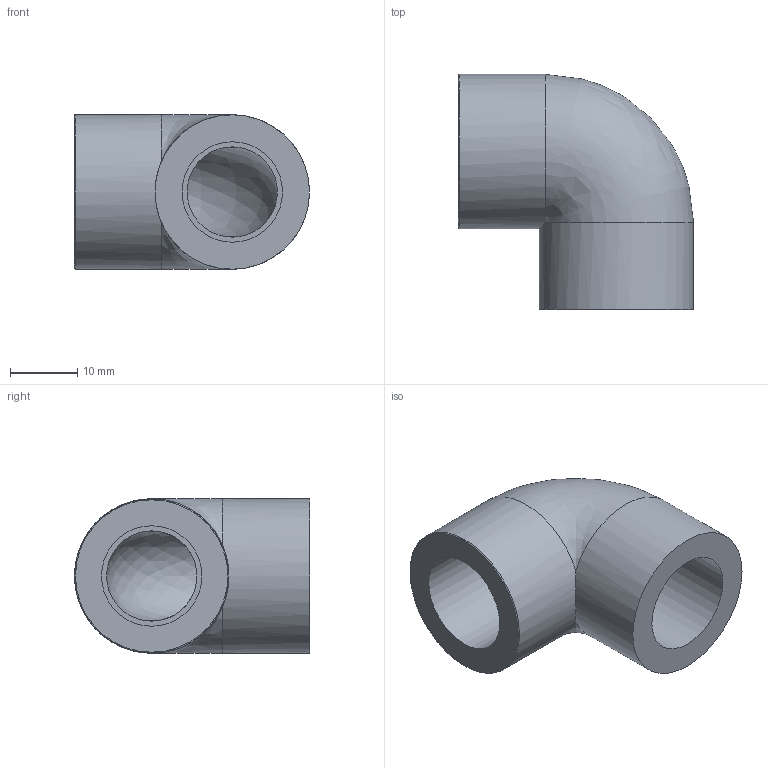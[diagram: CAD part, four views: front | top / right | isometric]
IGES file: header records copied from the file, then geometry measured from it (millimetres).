
Global section: file name: 050501003.ipt; native system: Autodesk Inventor 2015; preprocessor: unknown; author: KIM; date: 20171207.164632; units: millimetre
Bounding box: 35 x 35 x 23 mm (x, y, z)
Volume: 10831.5 mm3; surface area: 5530.2 mm2
Topology: 1 solids, 1 shells, 11 faces, 26 edges, 17 vertices
Faces by surface type: revolution 4, plane 4, cylinder 2, bspline 1
Full cylindrical faces by diameter (mm): 23 x2
